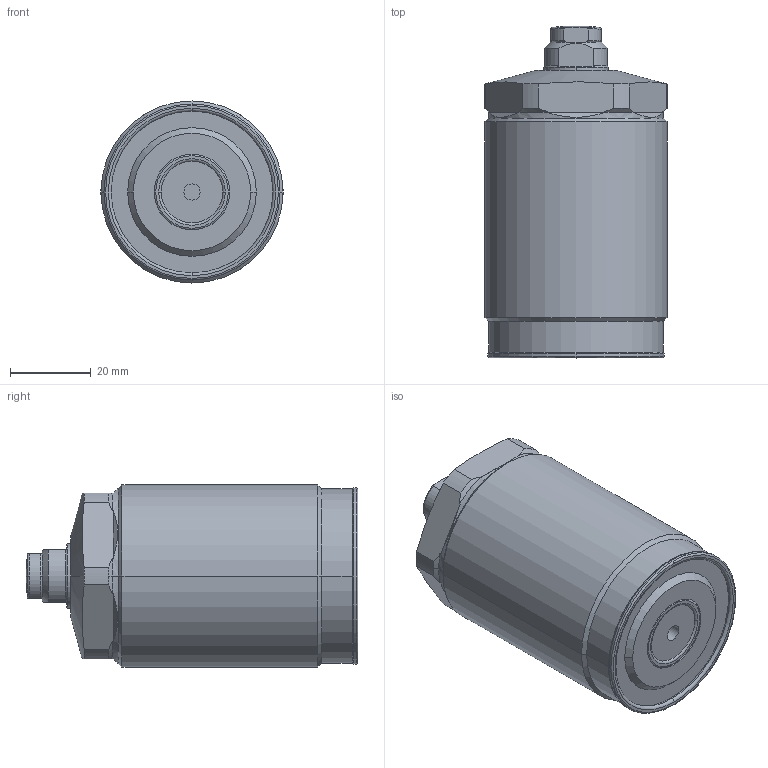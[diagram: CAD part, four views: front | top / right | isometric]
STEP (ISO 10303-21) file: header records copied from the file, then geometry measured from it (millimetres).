
FILE_DESCRIPTION(/* description */ (''),/* implementation_level */ '2;1');
FILE_NAME(/* name */ 'TSC45.stp',/* time_stamp */ '2025-01-10T13:28:00+08:00',/* author */ (''),/* organization */ (''),/* preprocessor_version */ 'ST-DEVELOPER v16.7',/* originating_system */ 'SIEMENS PLM Software NX 12.0',/* authorisation */ '');
FILE_SCHEMA (('AUTOMOTIVE_DESIGN { 1 0 10303 214 3 1 1 1 }'));
Length unit declared in the file: millimetre
Products named in the file (7): XLC-M10_contactbolt4431; XLC-M10_Oring969; TSC45-001; TSC45-03; TSC45-02; TSC45-04; TSC45_stp
Assembly tree (6 placements, depth 3):
  TSC45_stp
    TSC45-02
    TSC45-03
    TSC45-04
      XLC-M10_Oring969
      XLC-M10_contactbolt4431
    TSC45-001
Bounding box: 45 x 82 x 45 mm (x, y, z)
Volume: 106511.5 mm3; surface area: 16821.6 mm2
Topology: 5 solids, 5 shells, 143 faces, 323 edges, 200 vertices
Faces by surface type: cylinder 43, plane 37, torus 34, cone 27, sphere 2
Full cylindrical faces by diameter (mm): 4 x1
Entity records: 4345 total; most frequent: CARTESIAN_POINT 900, DIRECTION 769, ORIENTED_EDGE 644, AXIS2_PLACEMENT_3D 337, EDGE_CURVE 322, VERTEX_POINT 200, CIRCLE 187, EDGE_LOOP 158
